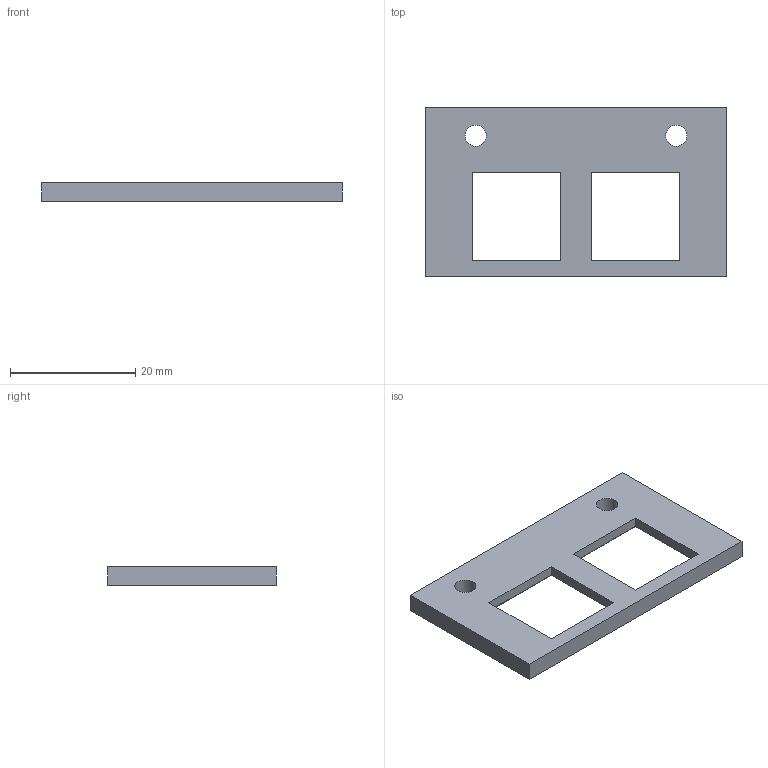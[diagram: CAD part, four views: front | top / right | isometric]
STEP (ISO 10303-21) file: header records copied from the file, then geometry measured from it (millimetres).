
FILE_DESCRIPTION(('Open CASCADE Model'),'2;1');
FILE_NAME('Open CASCADE Shape Model','2026-09-14T21:26:11',('Author'),( 'Open CASCADE'),'Open CASCADE STEP processor 7.9','Open CASCADE 7.9' ,'Unknown');
FILE_SCHEMA(('AUTOMOTIVE_DESIGN { 1 0 10303 214 1 1 1 1 }'));
Length unit declared in the file: millimetre
Products named in the file (1): Open CASCADE STEP translator 7.9 1
Bounding box: 48 x 26.95 x 3 mm (x, y, z)
Volume: 2399.9 mm3; surface area: 2638.1 mm2
Topology: 1 solids, 1 shells, 26 faces, 66 edges, 44 vertices
Faces by surface type: plane 24, cylinder 2
Full cylindrical faces by diameter (mm): 3.4 x2
Entity records: 1654 total; most frequent: CARTESIAN_POINT 309, DIRECTION 236, LINE 174, VECTOR 174, ORIENTED_EDGE 132, PCURVE 132, DEFINITIONAL_REPRESENTATION 132, EDGE_CURVE 66
